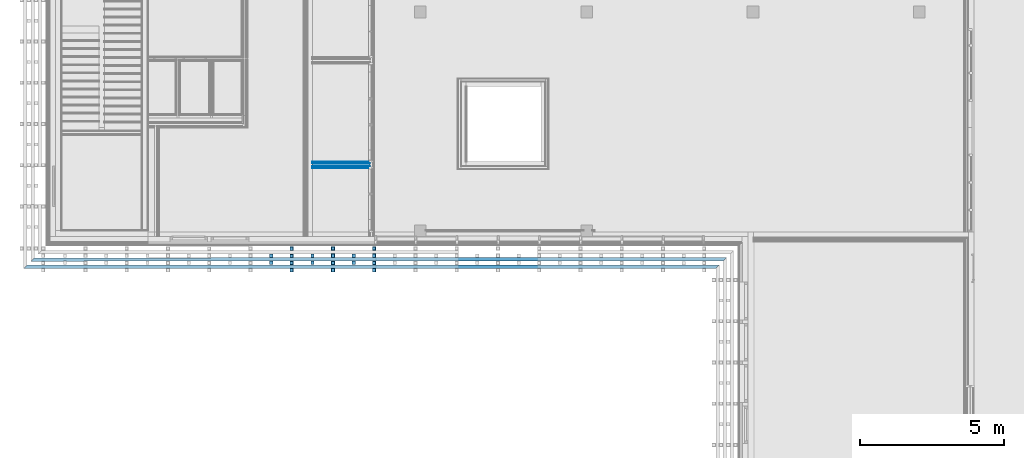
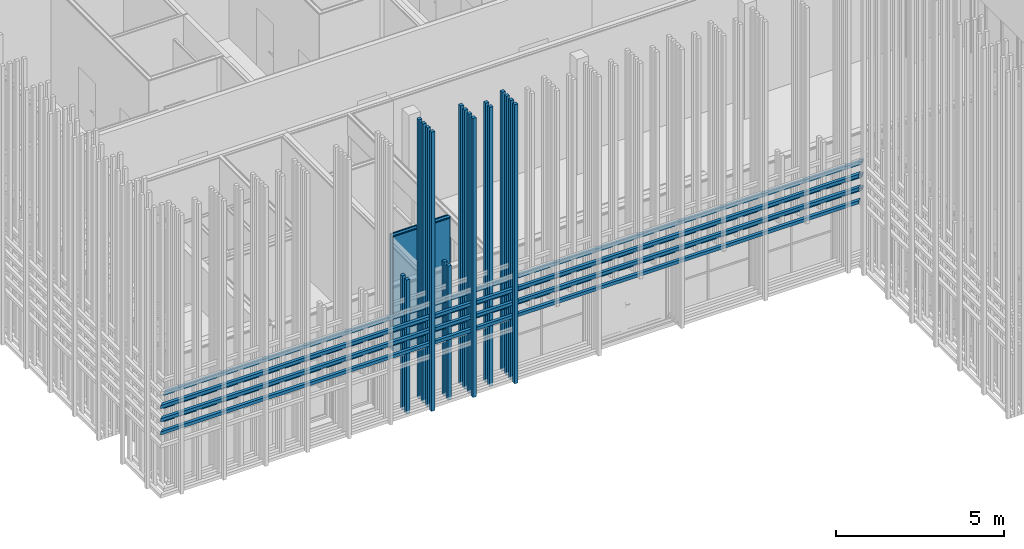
# One storey, part 151 of 260: 9 building element parts, 9 discrete accessories, 1 element without a shape of its own.
"""IFC2X3 building model written with IfcOpenShell, lengths in millimetres."""

from ifc_helpers import new_model, entity, si_unit, converted_unit, derived_unit, money_unit, direction, frame, origin_with_axes, place, context, subcontext, project, spatial, faceted_brep, material, material_list, type_object, element, aggregate, save


model = new_model("IFC2X3")

# Units and contexts
model_context = context("Model", 3, precision=0.01, world=origin_with_axes(), true_north=direction((0.0, 1.0)))
body_context = subcontext(model_context, "Body", "Model", "MODEL_VIEW")
ifc_project = project(units=[si_unit("LENGTHUNIT", "METRE", prefix="MILLI"), si_unit("AREAUNIT", "SQUARE_METRE"), si_unit("VOLUMEUNIT", "CUBIC_METRE"), converted_unit("PLANEANGLEUNIT", "DEGREE", entity("IfcPlaneAngleMeasure", 0.0174532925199), si_unit("PLANEANGLEUNIT", "RADIAN"), dimensions=[0, 0, 0, 0, 0, 0, 0]), money_unit("EUR"), converted_unit("TIMEUNIT", "Year", entity("IfcTimeMeasure", 31556926.0), si_unit("TIMEUNIT", "SECOND"), dimensions=[0, 0, 1, 0, 0, 0, 0]), si_unit("MASSUNIT", "GRAM", prefix="KILO"), si_unit("THERMODYNAMICTEMPERATUREUNIT", "DEGREE_CELSIUS"), si_unit("LUMINOUSINTENSITYUNIT", "LUMEN"), si_unit("ENERGYUNIT", "JOULE", prefix="MEGA"), derived_unit("THERMALCONDUCTANCEUNIT", [(si_unit("POWERUNIT", "WATT"), 1), (si_unit("LENGTHUNIT", "METRE"), -1), (si_unit("THERMODYNAMICTEMPERATUREUNIT", "KELVIN"), -1)]), derived_unit("SPECIFICHEATCAPACITYUNIT", [(si_unit("ENERGYUNIT", "JOULE"), 1), (si_unit("MASSUNIT", "GRAM", prefix="KILO"), -1), (si_unit("THERMODYNAMICTEMPERATUREUNIT", "KELVIN"), -1)]), derived_unit("MASSDENSITYUNIT", [(si_unit("MASSUNIT", "GRAM", prefix="KILO"), 1), (si_unit("VOLUMEUNIT", "CUBIC_METRE"), -1)])], contexts=[model_context])

# Site, building, storey
site_placement = place(None, origin_with_axes())
site = spatial("IfcSite", under=ifc_project, at=site_placement, Name="Kolde pst 67a", CompositionType="ELEMENT")
building_placement = place(site_placement, origin_with_axes())
building = spatial("IfcBuilding", under=site, at=building_placement, Name="Riigigümnaasium", CompositionType="ELEMENT")
storey_placement = place(building_placement, origin_with_axes())
storey = spatial("IfcBuildingStorey", under=building, at=storey_placement, Name="1. korrus", CompositionType="ELEMENT", Elevation=0.0)

# Discrete accessories
ifc_material_1 = material(Name="_VÄLISVIIMISTLUS - sõrmjätkatud puitprussid 120x115mm, liitekohad vähemärgatavad, Platowood sõrmjätkatud kuusk või samaväärne; eeltöödeldud tuletõkkevõõbaga, tuletundlikkus B-s1, d0, Woodsafe Exterior WFX™ või samaväärne; kinnitused vastavalt EK osale")
ifc_material_list_1 = material_list([ifc_material_1, ifc_material_1, ifc_material_1, ifc_material_1])
discrete_accessory_type_1 = type_object("IfcDiscreteAccessoryType", Name="120 4-ne vertikaalne 870 x 115")
for number, where, z_axis, x_axis in (
    (1, (8217.5036536, 47693.4070307, 280.0), (0.0, 0.0, 1.0), (5.86859191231e-05, 0.999999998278, 0.0)),
    (2, (9647.50221123, 47693.7277058, 280.0), (0.0, 0.0, 1.0), (5.86859191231e-05, 0.999999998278, 0.0)),
    (3, (11077.5036724, 47693.7277058, 280.0), (0.0, 0.0, 1.0), (5.86859191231e-05, 0.999999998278, 0.0)),
):
    element("IfcDiscreteAccessory", number, at=place(storey_placement, frame(where, z_axis=z_axis, x_axis=x_axis)), inside=storey, type_object=discrete_accessory_type_1, material=ifc_material_list_1, Name="Päikesevarjestus", context=body_context, shape_type="Brep", body=[
        faceted_brep([(-133.0, -70.0, 0.0), (-13.0, -70.0, 0.0), (-13.0, -70.0, 10140.0), (-133.0, -70.0, 10140.0), (-133.0, 45.0, 0.0), (-13.0, 45.0, 0.0), (-13.0, 45.0, 10140.0), (-133.0, 45.0, 10140.0)], [[[0, 1, 2, 3]], [[0, 4, 5, 1]], [[1, 5, 6, 2]], [[3, 2, 6, 7]], [[4, 0, 3, 7]], [[5, 4, 7, 6]]]),
        faceted_brep([(-383.0, -70.0, 0.0), (-263.0, -70.0, 0.0), (-263.0, -70.0, 10140.0), (-383.0, -70.0, 10140.0), (-383.0, 45.0, 0.0), (-263.0, 45.0, 0.0), (-263.0, 45.0, 10140.0), (-383.0, 45.0, 10140.0)], [[[0, 1, 2, 3]], [[0, 4, 5, 1]], [[1, 5, 6, 2]], [[3, 2, 6, 7]], [[4, 0, 3, 7]], [[5, 4, 7, 6]]]),
        faceted_brep([(-633.0, -70.0, 0.0), (-513.0, -70.0, 0.0), (-513.0, -70.0, 10140.0), (-633.0, -70.0, 10140.0), (-633.0, 45.0, 0.0), (-513.0, 45.0, 0.0), (-513.0, 45.0, 10140.0), (-633.0, 45.0, 10140.0)], [[[0, 1, 2, 3]], [[0, 4, 5, 1]], [[1, 5, 6, 2]], [[3, 2, 6, 7]], [[4, 0, 3, 7]], [[5, 4, 7, 6]]]),
        faceted_brep([(-883.0, -70.0, 0.0), (-763.0, -70.0, 0.0), (-763.0, -70.0, 10140.0), (-883.0, -70.0, 10140.0), (-883.0, 45.0, 0.0), (-763.0, 45.0, 0.0), (-763.0, 45.0, 10140.0), (-883.0, 45.0, 10140.0)], [[[0, 1, 2, 3]], [[0, 4, 5, 1]], [[1, 5, 6, 2]], [[3, 2, 6, 7]], [[4, 0, 3, 7]], [[5, 4, 7, 6]]]),
    ])
ifc_material_list_2 = material_list([ifc_material_1, ifc_material_1])
discrete_accessory_type_2 = type_object("IfcDiscreteAccessoryType", Name="1+paiksekaitse 4 tk nihkes 2 370 x 355")
discrete_accessory_1_placement = place(storey_placement, frame((-323.006615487, 47673.7129996, 2580.00014213), z_axis=(0.0, 0.0, 1.0), x_axis=(0.000305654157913, -0.999999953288, 0.0)))
element("IfcDiscreteAccessory", 4, at=discrete_accessory_1_placement, inside=storey, type_object=discrete_accessory_type_2, material=ifc_material_list_2, Name="Päikesevarjestus", context=body_context, shape_type="Brep", body=[
    faceted_brep([(495.0, 1345.32592951, 357.5), (493.447543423, 1345.32649513, 357.364177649), (493.489442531, 1460.32648749, 357.367843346), (495.0, 1460.32593714, 357.5), (495.0, 2060.31977462, 357.5), (493.665937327, 2060.32018238, 357.38328464), (493.701087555, 2175.32017701, 357.386359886), (495.0, 2175.31977999, 357.5), (495.0, 2775.32748315, 357.5), (493.93803163, 2775.32787006, 357.407089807), (493.979930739, 2890.32786243, 357.410755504), (495.0, 2890.32749078, 357.5), (495.0, 3490.31984142, 357.5), (494.103022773, 3490.32011559, 357.421524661), (494.138173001, 3605.32011021, 357.424599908), (495.0, 3605.31984679, 357.5), (495.0, 4205.32757559, 357.5), (494.428519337, 4205.32778381, 357.450001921), (494.470418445, 4320.32777618, 357.453667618), (495.0, 4320.32758323, 357.5), (495.0, 4920.31990822, 357.5), (494.540108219, 4920.32004879, 357.459764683), (494.575258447, 5035.32004342, 357.462839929), (495.0, 5035.31991359, 357.5), (495.0, 5635.32912924, 357.5), (494.919007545, 5635.32915874, 357.492914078), (494.960906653, 5750.32915111, 357.496579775), (495.0, 5750.32913687, 357.5), (495.0, 6350.31997502, 357.5), (494.977193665, 6350.31998199, 357.498004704), (495.0, 6424.93481568, 357.5), (495.0, 23502.8674899, 357.5), (375.0, 23622.9029175, 347.001360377), (375.0, -375.114708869, 347.001360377), (495.0, -495.151415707, 357.5), (495.0, 630.319707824, 357.5), (493.228852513, 630.320249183, 357.345044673), (493.264002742, 745.320243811, 357.34811992), (495.0, 745.319713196, 357.5), (495.0, 1345.32592951, 242.5), (493.447543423, 1345.32649513, 242.5), (493.489442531, 1460.32648749, 242.5), (495.0, 1460.32593714, 242.5), (495.0, 2060.31977462, 242.5), (493.665937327, 2060.32018238, 242.5), (493.701087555, 2175.32017701, 242.5), (495.0, 2175.31977999, 242.5), (495.0, 2775.32748315, 242.5), (493.93803163, 2775.32787006, 242.5), (493.979930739, 2890.32786243, 242.5), (495.0, 2890.32749078, 242.5), (495.0, 3490.31984142, 242.5), (494.103022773, 3490.32011559, 242.5), (494.138173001, 3605.32011021, 242.5), (495.0, 3605.31984679, 242.5), (495.0, 4205.32757559, 242.5), (494.428519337, 4205.32778381, 242.5), (494.470418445, 4320.32777618, 242.5), (495.0, 4320.32758323, 242.5), (495.0, 4920.31990822, 242.5), (494.540108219, 4920.32004879, 242.5), (494.575258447, 5035.32004342, 242.5), (495.0, 5035.31991359, 242.5), (495.0, 5635.32912924, 242.5), (494.919007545, 5635.32915874, 242.5), (494.960906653, 5750.32915111, 242.5), (495.0, 5750.32913687, 242.5), (495.0, 6350.31997502, 242.5), (494.977193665, 6350.31998199, 242.5), (495.0, 6424.93481568, 242.5), (495.0, 23502.8674899, 242.5), (375.0, 23622.9029175, 242.5), (375.0, -375.114708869, 242.5), (495.0, -495.151415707, 242.5), (495.0, 630.319707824, 242.5), (493.228852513, 630.320249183, 242.5), (493.264002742, 745.320243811, 242.5), (495.0, 745.319713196, 242.5)], [[[0, 1, 2, 3, 4, 5, 6, 7, 8, 9, 10, 11, 12, 13, 14, 15, 16, 17, 18, 19, 20, 21, 22, 23, 24, 25, 26, 27, 28, 29, 30, 31, 32, 33, 34, 35, 36, 37, 38]], [[1, 0, 39, 40]], [[2, 1, 40, 41]], [[3, 2, 41, 42]], [[3, 42, 43, 4]], [[5, 4, 43, 44]], [[6, 5, 44, 45]], [[7, 6, 45, 46]], [[47, 8, 7, 46]], [[9, 8, 47, 48]], [[10, 9, 48, 49]], [[11, 10, 49, 50]], [[11, 50, 51, 12]], [[13, 12, 51, 52]], [[14, 13, 52, 53]], [[15, 14, 53, 54]], [[55, 16, 15, 54]], [[17, 16, 55, 56]], [[18, 17, 56, 57]], [[19, 18, 57, 58]], [[19, 58, 59, 20]], [[21, 20, 59, 60]], [[22, 21, 60, 61]], [[23, 22, 61, 62]], [[63, 24, 23, 62]], [[25, 24, 63, 64]], [[26, 25, 64, 65]], [[27, 26, 65, 66]], [[27, 66, 67, 28]], [[29, 28, 67, 68]], [[69, 30, 29, 68]], [[30, 69, 70, 31]], [[71, 32, 31, 70]], [[71, 72, 33, 32]], [[72, 73, 34, 33]], [[74, 35, 34, 73]], [[36, 35, 74, 75]], [[37, 36, 75, 76]], [[38, 37, 76, 77]], [[39, 0, 38, 77]], [[40, 39, 77, 76, 75, 74, 73, 72, 71, 70, 69, 68, 67, 66, 65, 64, 63, 62, 61, 60, 59, 58, 57, 56, 55, 54, 53, 52, 51, 50, 49, 48, 47, 46, 45, 44, 43, 42, 41]]]),
    faceted_brep([(745.0, 1345.23484448, 117.5), (743.44752683, 1345.23541011, 117.364176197), (743.489425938, 1460.23540248, 117.367841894), (745.0, 1460.23485211, 117.5), (745.0, 2775.23639812, 117.5), (743.938015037, 2775.23678504, 117.407088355), (743.979914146, 2890.23677741, 117.410754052), (745.0, 2890.23640575, 117.5), (745.0, 4205.23649057, 117.5), (744.428502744, 4205.23669879, 117.450000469), (744.470401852, 4320.23669116, 117.453666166), (745.0, 4320.2364982, 117.5), (745.0, 5635.23804421, 117.5), (744.918990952, 5635.23807373, 117.492912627), (744.96089006, 5750.23806609, 117.496578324), (745.0, 5750.23805184, 117.5), (745.0, 23252.7936823, 117.5), (625.0, 23372.82911, 107.001360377), (625.0, -625.191181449, 107.001360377), (745.0, -745.227888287, 117.5), (745.0, 1345.23484448, 2.5), (743.44752683, 1345.23541011, 2.5), (743.489425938, 1460.23540248, 2.5), (745.0, 1460.23485211, 2.5), (745.0, 2775.23639812, 2.5), (743.938015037, 2775.23678504, 2.5), (743.979914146, 2890.23677741, 2.5), (745.0, 2890.23640575, 2.5), (745.0, 4205.23649057, 2.5), (744.428502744, 4205.23669879, 2.5), (744.470401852, 4320.23669116, 2.5), (745.0, 4320.2364982, 2.5), (745.0, 5635.23804421, 2.5), (744.918990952, 5635.23807373, 2.5), (744.96089006, 5750.23806609, 2.5), (745.0, 5750.23805184, 2.5), (745.0, 23252.7936823, 2.5), (625.0, 23372.82911, 2.5), (625.0, -625.191181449, 2.5), (745.0, -745.227888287, 2.5)], [[[0, 1, 2, 3, 4, 5, 6, 7, 8, 9, 10, 11, 12, 13, 14, 15, 16, 17, 18, 19]], [[1, 0, 20, 21]], [[2, 1, 21, 22]], [[3, 2, 22, 23]], [[3, 23, 24, 4]], [[5, 4, 24, 25]], [[6, 5, 25, 26]], [[7, 6, 26, 27]], [[7, 27, 28, 8]], [[9, 8, 28, 29]], [[10, 9, 29, 30]], [[11, 10, 30, 31]], [[11, 31, 32, 12]], [[13, 12, 32, 33]], [[14, 13, 33, 34]], [[15, 14, 34, 35]], [[15, 35, 36, 16]], [[37, 17, 16, 36]], [[37, 38, 18, 17]], [[38, 39, 19, 18]], [[20, 0, 19, 39]], [[21, 20, 39, 38, 37, 36, 35, 34, 33, 32, 31, 30, 29, 28, 27, 26, 25, 24, 23, 22]]]),
])
discrete_accessory_2_placement = place(storey_placement, frame((-323.006615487, 47673.7130211, 3060.00014213), z_axis=(0.0, 0.0, 1.0), x_axis=(0.000304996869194, -0.999999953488, 0.0)))
element("IfcDiscreteAccessory", 5, at=discrete_accessory_2_placement, inside=storey, type_object=discrete_accessory_type_2, material=ifc_material_list_2, Name="Päikesevarjestus", context=body_context, shape_type="Brep", body=[
    faceted_brep([(495.0, 1345.32625454, 357.5), (493.446680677, 1345.32681946, 357.364102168), (493.488504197, 1460.32681185, 357.367761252), (495.0, 1460.32626215, 357.5), (495.0, 2060.32009957, 357.5), (493.664604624, 2060.32050686, 357.383168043), (493.699679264, 2175.32050151, 357.386236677), (495.0, 2175.32010492, 357.5), (495.0, 2775.32780784, 357.5), (493.936228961, 2775.32819472, 357.406932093), (493.978052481, 2890.32818711, 357.410591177), (495.0, 2890.32781545, 357.5), (495.0, 3490.32016608, 357.5), (494.100750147, 3490.32044035, 357.421325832), (494.135824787, 3605.320435, 357.424394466), (495.0, 3605.32017143, 357.5), (495.0, 4205.32789995, 357.5), (494.425776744, 4205.32810878, 357.449761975), (494.467600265, 4320.32810118, 357.453421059), (495.0, 4320.32790755, 357.5), (495.0, 4920.32023259, 357.5), (494.53689567, 4920.32037384, 357.459483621), (494.57197031, 5035.32036849, 357.462552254), (495.0, 5035.32023794, 357.5), (495.0, 5635.32945325, 357.5), (494.915325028, 5635.32948404, 357.4925919), (494.957148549, 5750.32947644, 357.496250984), (495.0, 5750.32946085, 357.5), (495.0, 6350.3202991, 357.5), (494.973041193, 6350.32030732, 357.49764141), (495.0, 6438.7107413, 357.5), (495.0, 23502.8678106, 357.5), (375.0, 23622.9031593, 347.001360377), (375.0, -375.114462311, 347.001360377), (495.0, -495.15109025, 357.5), (495.0, 630.320033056, 357.5), (493.228459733, 630.32057337, 357.34501031), (493.263534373, 745.320568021, 357.348078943), (495.0, 745.320038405, 357.5), (495.0, 1345.32625454, 242.5), (493.446680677, 1345.32681946, 242.5), (493.488504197, 1460.32681185, 242.5), (495.0, 1460.32626215, 242.5), (495.0, 2060.32009957, 242.5), (493.664604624, 2060.32050686, 242.5), (493.699679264, 2175.32050151, 242.5), (495.0, 2175.32010492, 242.5), (495.0, 2775.32780784, 242.5), (493.936228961, 2775.32819472, 242.5), (493.978052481, 2890.32818711, 242.5), (495.0, 2890.32781545, 242.5), (495.0, 3490.32016608, 242.5), (494.100750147, 3490.32044035, 242.5), (494.135824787, 3605.320435, 242.5), (495.0, 3605.32017143, 242.5), (495.0, 4205.32789995, 242.5), (494.425776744, 4205.32810878, 242.5), (494.467600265, 4320.32810118, 242.5), (495.0, 4320.32790755, 242.5), (495.0, 4920.32023259, 242.5), (494.53689567, 4920.32037384, 242.5), (494.57197031, 5035.32036849, 242.5), (495.0, 5035.32023794, 242.5), (495.0, 5635.32945325, 242.5), (494.915325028, 5635.32948404, 242.5), (494.957148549, 5750.32947644, 242.5), (495.0, 5750.32946085, 242.5), (495.0, 6350.3202991, 242.5), (494.973041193, 6350.32030732, 242.5), (495.0, 6438.7107413, 242.5), (495.0, 23502.8678106, 242.5), (375.0, 23622.9031593, 242.5), (375.0, -375.114462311, 242.5), (495.0, -495.15109025, 242.5), (495.0, 630.320033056, 242.5), (493.228459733, 630.32057337, 242.5), (493.263534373, 745.320568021, 242.5), (495.0, 745.320038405, 242.5)], [[[0, 1, 2, 3, 4, 5, 6, 7, 8, 9, 10, 11, 12, 13, 14, 15, 16, 17, 18, 19, 20, 21, 22, 23, 24, 25, 26, 27, 28, 29, 30, 31, 32, 33, 34, 35, 36, 37, 38]], [[1, 0, 39, 40]], [[2, 1, 40, 41]], [[3, 2, 41, 42]], [[3, 42, 43, 4]], [[5, 4, 43, 44]], [[6, 5, 44, 45]], [[7, 6, 45, 46]], [[46, 47, 8, 7]], [[48, 9, 8, 47]], [[49, 10, 9, 48]], [[50, 11, 10, 49]], [[12, 11, 50, 51]], [[51, 52, 13, 12]], [[52, 53, 14, 13]], [[53, 54, 15, 14]], [[15, 54, 55, 16]], [[55, 56, 17, 16]], [[56, 57, 18, 17]], [[57, 58, 19, 18]], [[59, 20, 19, 58]], [[20, 59, 60, 21]], [[21, 60, 61, 22]], [[22, 61, 62, 23]], [[24, 23, 62, 63]], [[24, 63, 64, 25]], [[25, 64, 65, 26]], [[26, 65, 66, 27]], [[66, 67, 28, 27]], [[29, 28, 67, 68]], [[69, 30, 29, 68]], [[30, 69, 70, 31]], [[31, 70, 71, 32]], [[33, 32, 71, 72]], [[34, 33, 72, 73]], [[73, 74, 35, 34]], [[75, 36, 35, 74]], [[76, 37, 36, 75]], [[77, 38, 37, 76]], [[39, 0, 38, 77]], [[40, 39, 77, 76, 75, 74, 73, 72, 71, 70, 69, 68, 67, 66, 65, 64, 63, 62, 61, 60, 59, 58, 57, 56, 55, 54, 53, 52, 51, 50, 49, 48, 47, 46, 45, 44, 43, 42, 41]]]),
    faceted_brep([(745.0, 1345.23533384, 117.5), (743.446664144, 1345.23589876, 117.364100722), (743.488487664, 1460.23589116, 117.367759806), (745.0, 1460.23534145, 117.5), (745.0, 2775.23688714, 117.5), (743.936212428, 2775.23727402, 117.406930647), (743.978035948, 2890.23726641, 117.410589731), (745.0, 2890.23689474, 117.5), (745.0, 4205.23697925, 117.5), (744.425760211, 4205.23718809, 117.449760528), (744.467583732, 4320.23718048, 117.453419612), (745.0, 4320.23698685, 117.5), (745.0, 5635.23853254, 117.5), (744.915308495, 5635.23856334, 117.492590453), (744.957132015, 5750.23855574, 117.496249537), (745.0, 5750.23854015, 117.5), (745.0, 23252.7941674, 117.5), (625.0, 23372.8295161, 107.001360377), (625.0, -625.190770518, 107.001360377), (745.0, -745.227398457, 117.5), (745.0, 1345.23533384, 2.5), (743.446664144, 1345.23589876, 2.5), (743.488487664, 1460.23589116, 2.5), (745.0, 1460.23534145, 2.5), (745.0, 2775.23688714, 2.5), (743.936212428, 2775.23727402, 2.5), (743.978035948, 2890.23726641, 2.5), (745.0, 2890.23689474, 2.5), (745.0, 4205.23697925, 2.5), (744.425760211, 4205.23718809, 2.5), (744.467583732, 4320.23718048, 2.5), (745.0, 4320.23698685, 2.5), (745.0, 5635.23853254, 2.5), (744.915308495, 5635.23856334, 2.5), (744.957132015, 5750.23855574, 2.5), (745.0, 5750.23854015, 2.5), (745.0, 23252.7941674, 2.5), (625.0, 23372.8295161, 2.5), (625.0, -625.190770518, 2.5), (745.0, -745.227398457, 2.5)], [[[0, 1, 2, 3, 4, 5, 6, 7, 8, 9, 10, 11, 12, 13, 14, 15, 16, 17, 18, 19]], [[1, 0, 20, 21]], [[2, 1, 21, 22]], [[3, 2, 22, 23]], [[3, 23, 24, 4]], [[5, 4, 24, 25]], [[6, 5, 25, 26]], [[7, 6, 26, 27]], [[7, 27, 28, 8]], [[9, 8, 28, 29]], [[10, 9, 29, 30]], [[11, 10, 30, 31]], [[11, 31, 32, 12]], [[13, 12, 32, 33]], [[14, 13, 33, 34]], [[15, 14, 34, 35]], [[15, 35, 36, 16]], [[37, 17, 16, 36]], [[37, 38, 18, 17]], [[38, 39, 19, 18]], [[20, 0, 19, 39]], [[21, 20, 39, 38, 37, 36, 35, 34, 33, 32, 31, 30, 29, 28, 27, 26, 25, 24, 23, 22]]]),
])
discrete_accessory_3_placement = place(storey_placement, frame((-323.006615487, 47673.7130211, 3540.00014213), z_axis=(0.0, 0.0, 1.0), x_axis=(0.000304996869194, -0.999999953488, 0.0)))
element("IfcDiscreteAccessory", 6, at=discrete_accessory_3_placement, inside=storey, type_object=discrete_accessory_type_2, material=ifc_material_list_2, Name="Päikesevarjestus", context=body_context, shape_type="Brep", body=[
    faceted_brep([(495.0, 1345.32625454, 357.5), (493.446680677, 1345.32681946, 357.364102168), (493.488504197, 1460.32681185, 357.367761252), (495.0, 1460.32626215, 357.5), (495.0, 2060.32009957, 357.5), (493.664604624, 2060.32050686, 357.383168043), (493.699679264, 2175.32050151, 357.386236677), (495.0, 2175.32010492, 357.5), (495.0, 2775.32780784, 357.5), (493.936228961, 2775.32819472, 357.406932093), (493.978052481, 2890.32818711, 357.410591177), (495.0, 2890.32781545, 357.5), (495.0, 3490.32016608, 357.5), (494.100750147, 3490.32044035, 357.421325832), (494.135824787, 3605.320435, 357.424394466), (495.0, 3605.32017143, 357.5), (495.0, 4205.32789995, 357.5), (494.425776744, 4205.32810878, 357.449761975), (494.467600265, 4320.32810118, 357.453421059), (495.0, 4320.32790755, 357.5), (495.0, 4920.32023259, 357.5), (494.53689567, 4920.32037384, 357.459483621), (494.57197031, 5035.32036849, 357.462552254), (495.0, 5035.32023794, 357.5), (495.0, 5635.32945325, 357.5), (494.915325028, 5635.32948404, 357.4925919), (494.957148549, 5750.32947644, 357.496250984), (495.0, 5750.32946085, 357.5), (495.0, 6350.3202991, 357.5), (494.973041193, 6350.32030732, 357.49764141), (495.0, 6438.7107413, 357.5), (495.0, 23502.8678106, 357.5), (375.0, 23622.9031593, 347.001360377), (375.0, -375.114462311, 347.001360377), (495.0, -495.15109025, 357.5), (495.0, 630.320033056, 357.5), (493.228459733, 630.32057337, 357.34501031), (493.263534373, 745.320568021, 357.348078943), (495.0, 745.320038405, 357.5), (495.0, 1345.32625454, 242.5), (493.446680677, 1345.32681946, 242.5), (493.488504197, 1460.32681185, 242.5), (495.0, 1460.32626215, 242.5), (495.0, 2060.32009957, 242.5), (493.664604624, 2060.32050686, 242.5), (493.699679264, 2175.32050151, 242.5), (495.0, 2175.32010492, 242.5), (495.0, 2775.32780784, 242.5), (493.936228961, 2775.32819472, 242.5), (493.978052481, 2890.32818711, 242.5), (495.0, 2890.32781545, 242.5), (495.0, 3490.32016608, 242.5), (494.100750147, 3490.32044035, 242.5), (494.135824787, 3605.320435, 242.5), (495.0, 3605.32017143, 242.5), (495.0, 4205.32789995, 242.5), (494.425776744, 4205.32810878, 242.5), (494.467600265, 4320.32810118, 242.5), (495.0, 4320.32790755, 242.5), (495.0, 4920.32023259, 242.5), (494.53689567, 4920.32037384, 242.5), (494.57197031, 5035.32036849, 242.5), (495.0, 5035.32023794, 242.5), (495.0, 5635.32945325, 242.5), (494.915325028, 5635.32948404, 242.5), (494.957148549, 5750.32947644, 242.5), (495.0, 5750.32946085, 242.5), (495.0, 6350.3202991, 242.5), (494.973041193, 6350.32030732, 242.5), (495.0, 6438.7107413, 242.5), (495.0, 23502.8678106, 242.5), (375.0, 23622.9031593, 242.5), (375.0, -375.114462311, 242.5), (495.0, -495.15109025, 242.5), (495.0, 630.320033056, 242.5), (493.228459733, 630.32057337, 242.5), (493.263534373, 745.320568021, 242.5), (495.0, 745.320038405, 242.5)], [[[0, 1, 2, 3, 4, 5, 6, 7, 8, 9, 10, 11, 12, 13, 14, 15, 16, 17, 18, 19, 20, 21, 22, 23, 24, 25, 26, 27, 28, 29, 30, 31, 32, 33, 34, 35, 36, 37, 38]], [[1, 0, 39, 40]], [[2, 1, 40, 41]], [[3, 2, 41, 42]], [[3, 42, 43, 4]], [[5, 4, 43, 44]], [[6, 5, 44, 45]], [[7, 6, 45, 46]], [[46, 47, 8, 7]], [[48, 9, 8, 47]], [[49, 10, 9, 48]], [[50, 11, 10, 49]], [[12, 11, 50, 51]], [[51, 52, 13, 12]], [[52, 53, 14, 13]], [[53, 54, 15, 14]], [[15, 54, 55, 16]], [[55, 56, 17, 16]], [[56, 57, 18, 17]], [[57, 58, 19, 18]], [[59, 20, 19, 58]], [[20, 59, 60, 21]], [[21, 60, 61, 22]], [[22, 61, 62, 23]], [[24, 23, 62, 63]], [[24, 63, 64, 25]], [[25, 64, 65, 26]], [[26, 65, 66, 27]], [[66, 67, 28, 27]], [[29, 28, 67, 68]], [[69, 30, 29, 68]], [[30, 69, 70, 31]], [[31, 70, 71, 32]], [[33, 32, 71, 72]], [[34, 33, 72, 73]], [[73, 74, 35, 34]], [[75, 36, 35, 74]], [[76, 37, 36, 75]], [[77, 38, 37, 76]], [[39, 0, 38, 77]], [[40, 39, 77, 76, 75, 74, 73, 72, 71, 70, 69, 68, 67, 66, 65, 64, 63, 62, 61, 60, 59, 58, 57, 56, 55, 54, 53, 52, 51, 50, 49, 48, 47, 46, 45, 44, 43, 42, 41]]]),
    faceted_brep([(745.0, 1345.23533384, 117.5), (743.446664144, 1345.23589876, 117.364100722), (743.488487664, 1460.23589116, 117.367759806), (745.0, 1460.23534145, 117.5), (745.0, 2775.23688714, 117.5), (743.936212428, 2775.23727402, 117.406930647), (743.978035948, 2890.23726641, 117.410589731), (745.0, 2890.23689474, 117.5), (745.0, 4205.23697925, 117.5), (744.425760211, 4205.23718809, 117.449760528), (744.467583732, 4320.23718048, 117.453419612), (745.0, 4320.23698685, 117.5), (745.0, 5635.23853254, 117.5), (744.915308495, 5635.23856334, 117.492590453), (744.957132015, 5750.23855574, 117.496249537), (745.0, 5750.23854015, 117.5), (745.0, 23252.7941674, 117.5), (625.0, 23372.8295161, 107.001360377), (625.0, -625.190770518, 107.001360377), (745.0, -745.227398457, 117.5), (745.0, 1345.23533384, 2.5), (743.446664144, 1345.23589876, 2.5), (743.488487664, 1460.23589116, 2.5), (745.0, 1460.23534145, 2.5), (745.0, 2775.23688714, 2.5), (743.936212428, 2775.23727402, 2.5), (743.978035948, 2890.23726641, 2.5), (745.0, 2890.23689474, 2.5), (745.0, 4205.23697925, 2.5), (744.425760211, 4205.23718809, 2.5), (744.467583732, 4320.23718048, 2.5), (745.0, 4320.23698685, 2.5), (745.0, 5635.23853254, 2.5), (744.915308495, 5635.23856334, 2.5), (744.957132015, 5750.23855574, 2.5), (745.0, 5750.23854015, 2.5), (745.0, 23252.7941674, 2.5), (625.0, 23372.8295161, 2.5), (625.0, -625.190770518, 2.5), (745.0, -745.227398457, 2.5)], [[[0, 1, 2, 3, 4, 5, 6, 7, 8, 9, 10, 11, 12, 13, 14, 15, 16, 17, 18, 19]], [[1, 0, 20, 21]], [[2, 1, 21, 22]], [[3, 2, 22, 23]], [[3, 23, 24, 4]], [[5, 4, 24, 25]], [[6, 5, 25, 26]], [[7, 6, 26, 27]], [[7, 27, 28, 8]], [[9, 8, 28, 29]], [[10, 9, 29, 30]], [[11, 10, 30, 31]], [[11, 31, 32, 12]], [[13, 12, 32, 33]], [[14, 13, 33, 34]], [[15, 14, 34, 35]], [[15, 35, 36, 16]], [[37, 17, 16, 36]], [[37, 38, 18, 17]], [[38, 39, 19, 18]], [[20, 0, 19, 39]], [[21, 20, 39, 38, 37, 36, 35, 34, 33, 32, 31, 30, 29, 28, 27, 26, 25, 24, 23, 22]]]),
])
discrete_accessory_type_3 = type_object("IfcDiscreteAccessoryType", Name="1+paiksekaitse 3 370 x 115")
for number, where, z_axis, x_axis in (
    (7, (7574.9643617, 46713.6768307, 280.0), (0.0, 0.0, 1.0), (0.0, 1.0, 0.0)),
    (8, (9004.9643617, 46713.6768307, 280.0), (0.0, 0.0, 1.0), (0.0, 1.0, 0.0)),
):
    element("IfcDiscreteAccessory", number, at=place(storey_placement, frame(where, z_axis=z_axis, x_axis=x_axis)), inside=storey, type_object=discrete_accessory_type_3, material=ifc_material_list_2, Name="Päikesevarjestus", context=body_context, shape_type="Brep", body=[
        faceted_brep([(467.0, 117.5, 0.0), (347.0, 117.5, 0.0), (347.0, 117.5, 4870.00014213), (467.0, 117.5, 4870.00014213), (467.0, 2.5, 0.0), (347.0, 2.5, 0.0), (347.0, 2.5, 4870.00014213), (467.0, 2.5, 4870.00014213)], [[[0, 1, 2, 3]], [[0, 4, 5, 1]], [[1, 5, 6, 2]], [[3, 2, 6, 7]], [[4, 0, 3, 7]], [[5, 4, 7, 6]]]),
        faceted_brep([(717.0, 117.5, 0.0), (597.0, 117.5, 0.0), (597.0, 117.5, 4870.00014213), (717.0, 117.5, 4870.00014213), (717.0, 2.5, 0.0), (597.0, 2.5, 0.0), (597.0, 2.5, 4870.00014213), (717.0, 2.5, 4870.00014213)], [[[0, 1, 2, 3]], [[0, 4, 5, 1]], [[1, 5, 6, 2]], [[3, 2, 6, 7]], [[4, 0, 3, 7]], [[5, 4, 7, 6]]]),
    ])
discrete_accessory_4_placement = place(storey_placement, frame((10434.9643617, 46713.6768307, 280.0), z_axis=(0.0, 0.0, 1.0), x_axis=(0.0, 1.0, 0.0)))
element("IfcDiscreteAccessory", 9, at=discrete_accessory_4_placement, inside=storey, type_object=discrete_accessory_type_3, material=ifc_material_list_2, Name="Päikesevarjestus", context=body_context, shape_type="Brep", body=[
    faceted_brep([(467.0, 117.5, 0.0), (347.0, 117.5, 0.0), (347.0, 117.5, 10140.0), (467.0, 117.5, 10140.0), (467.0, 2.5, 0.0), (347.0, 2.5, 0.0), (347.0, 2.5, 10140.0), (467.0, 2.5, 10140.0)], [[[0, 1, 2, 3]], [[0, 4, 5, 1]], [[1, 5, 6, 2]], [[3, 2, 6, 7]], [[4, 0, 3, 7]], [[5, 4, 7, 6]]]),
    faceted_brep([(717.0, 117.5, 0.0), (597.0, 117.5, 0.0), (597.0, 117.5, 10140.0), (717.0, 117.5, 10140.0), (717.0, 2.5, 0.0), (597.0, 2.5, 0.0), (597.0, 2.5, 10140.0), (717.0, 2.5, 10140.0)], [[[0, 1, 2, 3]], [[0, 4, 5, 1]], [[1, 5, 6, 2]], [[3, 2, 6, 7]], [[4, 0, 3, 7]], [[5, 4, 7, 6]]]),
])

# Wall, building element parts
wall_type = type_object("IfcWallType", Name="SS-PK-10/1_vill100+2dold 220", PredefinedType="NOTDEFINED")
wall_placement = place(storey_placement, frame((11109.0220835, 50629.9783853, 0.0), z_axis=(0.0, 0.0, 1.0), x_axis=(-0.999999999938, 1.11147909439e-05, 0.0)))
wall = element("IfcWall", 10, at=wall_placement, inside=storey, type_object=wall_type, Name="Sisesein")
ifc_material_2 = material(Name="_VIIMISTLUSKIHT - Dold plaat vastavalt SA osale")
building_element_part_1_placement = place(wall_placement, origin_with_axes())
building_element_part_1 = element("IfcBuildingElementPart", 11, at=building_element_part_1_placement, material=ifc_material_2, Name="_VIIMISTLUSKIHT - Dold plaat vastavalt SA osale", context=body_context, shape_type="Brep", body=[
    faceted_brep([(2169.09504211, 200.0, 0.0), (2169.09504211, 200.0, 4170.0), (220.030762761, 200.0, 4170.0), (220.030762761, 200.0, 0.0), (2169.09504211, 220.0, 0.0), (2169.09504211, 220.0, 4170.0), (220.033838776, 220.0, 4170.0), (220.033838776, 220.0, 0.0)], [[[0, 1, 2, 3]], [[4, 5, 1, 0]], [[5, 6, 2, 1]], [[3, 2, 6, 7]], [[7, 4, 0, 3]], [[7, 6, 5, 4]]]),
])
ifc_material_3 = material(Name="_KARKASS - eriprofiilkinnitus vastavalt sisemisele plaatviimistlusele")
building_element_part_2_placement = place(wall_placement, origin_with_axes())
building_element_part_2 = element("IfcBuildingElementPart", 12, at=building_element_part_2_placement, material=ifc_material_3, Name="_KARKASS - eriprofiilkinnitus vastavalt sisemisele plaatviimistlusele", context=body_context, shape_type="Brep", body=[
    faceted_brep([(220.030762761, 200.0, 400.0), (220.030762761, 200.0, 3490.0), (200.030762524, 200.0, 3490.0), (200.030762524, 200.0, 4170.0), (2169.09504211, 200.0, 4170.0), (2169.09504211, 200.0, 0.0), (200.030762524, 200.0, 0.0), (200.030762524, 200.0, 400.0), (200.029224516, 190.0, 0.0), (200.029224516, 190.0, 4170.0), (2169.09504211, 190.0, 4170.0), (2169.09504211, 190.0, 0.0)], [[[0, 1, 2, 3, 4, 5, 6, 7]], [[1, 0, 7, 2]], [[3, 2, 7, 6, 8, 9]], [[10, 4, 3, 9]], [[5, 4, 10, 11]], [[5, 11, 8, 6]], [[11, 10, 9, 8]]]),
])
ifc_material_4 = material(Name="_PLAATMATERJAL - tuletõkkekipsplaat, Knauf Red GKF või samaväärne")
building_element_part_3_placement = place(wall_placement, origin_with_axes())
building_element_part_3 = element("IfcBuildingElementPart", 13, at=building_element_part_3_placement, material=ifc_material_4, Name="_PLAATMATERJAL - tuletõkkekipsplaat, Knauf Red GKF või samaväärne", context=body_context, shape_type="Brep", body=[
    faceted_brep([(2169.09504211, 175.0, 0.0), (2169.09504211, 175.0, 4170.0), (190.026917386, 175.0, 4170.0), (190.026917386, 175.0, 0.0), (2169.09504211, 190.0, 0.0), (2169.09504211, 190.0, 4170.0), (190.029224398, 190.0, 4170.0), (190.029224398, 190.0, 0.0)], [[[0, 1, 2, 3]], [[4, 5, 1, 0]], [[5, 6, 2, 1]], [[3, 2, 6, 7]], [[7, 4, 0, 3]], [[7, 6, 5, 4]]]),
])
building_element_part_4_placement = place(wall_placement, origin_with_axes())
building_element_part_4 = element("IfcBuildingElementPart", 14, at=building_element_part_4_placement, material=ifc_material_4, Name="_PLAATMATERJAL - tuletõkkekipsplaat, Knauf Red GKF või samaväärne", context=body_context, shape_type="Brep", body=[
    faceted_brep([(2169.09504211, 160.0, 0.0), (2169.09504211, 160.0, 4170.0), (175.024610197, 160.0, 4170.0), (175.024610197, 160.0, 0.0), (2169.09504211, 175.0, 0.0), (2169.09504211, 175.0, 4170.0), (175.026917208, 175.0, 4170.0), (175.026917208, 175.0, 0.0)], [[[0, 1, 2, 3]], [[4, 5, 1, 0]], [[5, 6, 2, 1]], [[3, 2, 6, 7]], [[7, 4, 0, 3]], [[7, 6, 5, 4]]]),
])
ifc_material_5 = material(Name="_KARKASS - puitpruss 100x50mm vertikaalne, samm 600mm, vahel mineraalvill, helineeldetegur αw = 1.0, ISOVER ACOUSTIC 100mm või samaväärne")
building_element_part_5_placement = place(wall_placement, origin_with_axes())
building_element_part_5 = element("IfcBuildingElementPart", 15, at=building_element_part_5_placement, material=ifc_material_5, Name="_KARKASS - puitpruss 100x50mm vertikaalne, samm 600mm, vahel mineraalvill, helineeldetegur αw = 1.0, ISOVER ACOUSTIC 100mm või samaväärne", context=body_context, shape_type="Brep", body=[
    faceted_brep([(2169.09504211, 60.0, 0.0), (2169.09504211, 60.0, 4170.0), (160.00922994, 60.0, 4170.0), (160.00922994, 60.0, 0.0), (2169.09504211, 160.0, 0.0), (2169.09504211, 160.0, 4170.0), (160.024610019, 160.0, 4170.0), (160.024610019, 160.0, 0.0)], [[[0, 1, 2, 3]], [[4, 5, 1, 0]], [[5, 6, 2, 1]], [[3, 2, 6, 7]], [[7, 4, 0, 3]], [[7, 6, 5, 4]]]),
])
building_element_part_6_placement = place(wall_placement, origin_with_axes())
building_element_part_6 = element("IfcBuildingElementPart", 16, at=building_element_part_6_placement, material=ifc_material_4, Name="_PLAATMATERJAL - tuletõkkekipsplaat, Knauf Red GKF või samaväärne", context=body_context, shape_type="Brep", body=[
    faceted_brep([(2169.09504211, 45.0, 0.0), (2169.09504211, 45.0, 4170.0), (175.006923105, 45.0, 4170.0), (175.006923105, 45.0, 0.0), (2169.09504211, 60.0, 0.0), (2169.09504211, 60.0, 4170.0), (175.009230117, 60.0, 4170.0), (175.009230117, 60.0, 0.0)], [[[0, 1, 2, 3]], [[4, 5, 1, 0]], [[5, 6, 2, 1]], [[3, 2, 6, 7]], [[7, 4, 0, 3]], [[7, 6, 5, 4]]]),
])
building_element_part_7_placement = place(wall_placement, origin_with_axes())
building_element_part_7 = element("IfcBuildingElementPart", 17, at=building_element_part_7_placement, material=ifc_material_4, Name="_PLAATMATERJAL - tuletõkkekipsplaat, Knauf Red GKF või samaväärne", context=body_context, shape_type="Brep", body=[
    faceted_brep([(2169.09504211, 30.0, 0.0), (2169.09504211, 30.0, 4170.0), (190.004616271, 30.0, 4170.0), (190.004616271, 30.0, 0.0), (2169.09504211, 45.0, 0.0), (2169.09504211, 45.0, 4170.0), (190.006923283, 45.0, 4170.0), (190.006923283, 45.0, 0.0)], [[[0, 1, 2, 3]], [[4, 5, 1, 0]], [[5, 6, 2, 1]], [[3, 2, 6, 7]], [[7, 4, 0, 3]], [[7, 6, 5, 4]]]),
])
building_element_part_8_placement = place(wall_placement, origin_with_axes())
building_element_part_8 = element("IfcBuildingElementPart", 18, at=building_element_part_8_placement, material=ifc_material_3, Name="_KARKASS - eriprofiilkinnitus vastavalt sisemisele plaatviimistlusele", context=body_context, shape_type="Brep", body=[
    faceted_brep([(2169.09504211, 20.0, 0.0), (2169.09504211, 20.0, 4170.0), (200.003078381, 20.0, 4170.0), (200.003078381, 20.0, 0.0), (2169.09504211, 30.0, 0.0), (2169.09504211, 30.0, 4170.0), (200.004616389, 30.0, 4170.0), (200.004616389, 30.0, 0.0)], [[[0, 1, 2, 3]], [[4, 5, 1, 0]], [[5, 6, 2, 1]], [[3, 2, 6, 7]], [[7, 4, 0, 3]], [[7, 6, 5, 4]]]),
])
building_element_part_9_placement = place(wall_placement, origin_with_axes())
building_element_part_9 = element("IfcBuildingElementPart", 19, at=building_element_part_9_placement, material=ifc_material_2, Name="_VIIMISTLUSKIHT - Dold plaat vastavalt SA osale", context=body_context, shape_type="Brep", body=[
    faceted_brep([(2169.09504211, 0.0, 0.0), (2169.09504211, 0.0, 4170.0), (220.000002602, 0.0, 4170.0), (220.000002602, 0.0, 0.0), (2169.09504211, 20.0, 0.0), (2169.09504211, 20.0, 4170.0), (220.003078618, 20.0, 4170.0), (220.003078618, 20.0, 0.0)], [[[0, 1, 2, 3]], [[4, 5, 1, 0]], [[5, 6, 2, 1]], [[3, 2, 6, 7]], [[7, 4, 0, 3]], [[7, 6, 5, 4]]]),
])
aggregate(wall, [building_element_part_1, building_element_part_2, building_element_part_3, building_element_part_4, building_element_part_5, building_element_part_6, building_element_part_7, building_element_part_8, building_element_part_9])

save(model, "model.ifc")
